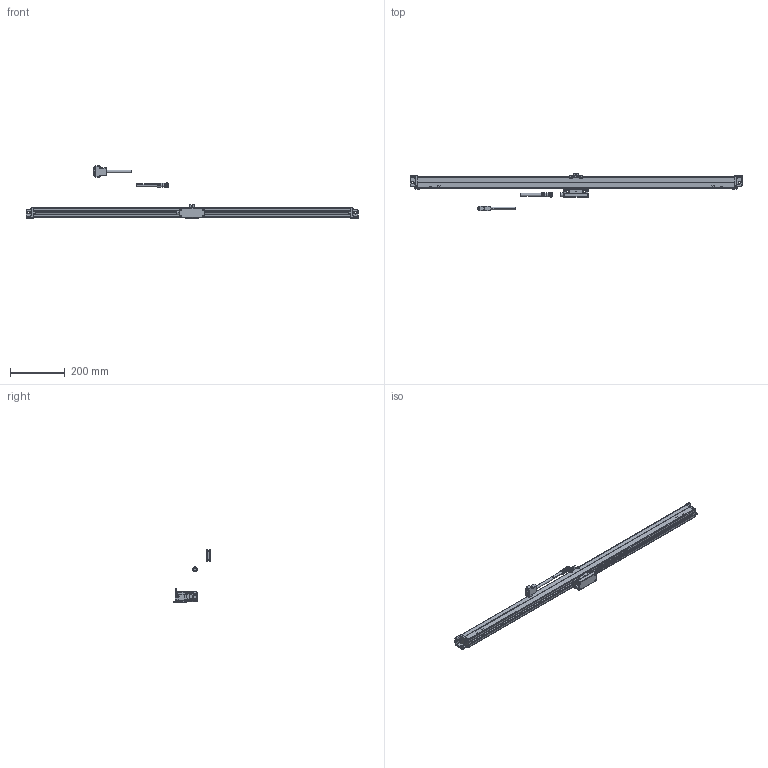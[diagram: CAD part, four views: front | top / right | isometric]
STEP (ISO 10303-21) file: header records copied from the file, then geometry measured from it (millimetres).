
FILE_DESCRIPTION(('Creo Elements/Direct Modeling STEP Export'),'2;1');
FILE_NAME('AT103_AT203-1000.stp','2018-01-05T14:33:32',(''),(''),'Creo Elements/Direct Modeling STEP processor for AP214 (Solid Model)','Creo Elements/Direct Modeling 18.1B 29-Sep-2012 (C) Parametric Technology GmbH','');
FILE_SCHEMA(('AUTOMOTIVE_DESIGN { 1 0 10303 214 1 1 1 1 }'));
Length unit declared in the file: millimetre
Products named in the file (6): Cable; Cable.1; Scale_1000; Scale_1000.1; DetectorHead; AT103_203-1000
Assembly tree (5 placements, depth 2):
  AT103_203-1000
    DetectorHead
    Scale_1000.1
    Scale_1000
    Cable.1
    Cable
Bounding box: 1208 x 136.5 x 190.1 mm (x, y, z)
Volume: 3668142.9 mm3; surface area: 492488 mm2
Topology: 5 solids, 9 shells, 1783 faces, 4588 edges, 2871 vertices
Faces by surface type: plane 1080, cylinder 464, cone 128, torus 68, sphere 16, extrusion 16, bspline 7, revolution 4
Entity records: 57516 total; most frequent: CARTESIAN_POINT 10659, ORIENTED_EDGE 9142, DIRECTION 8377, EDGE_CURVE 4571, VECTOR 2949, LINE 2943, VERTEX_POINT 2871, AXIS2_PLACEMENT_3D 2711
